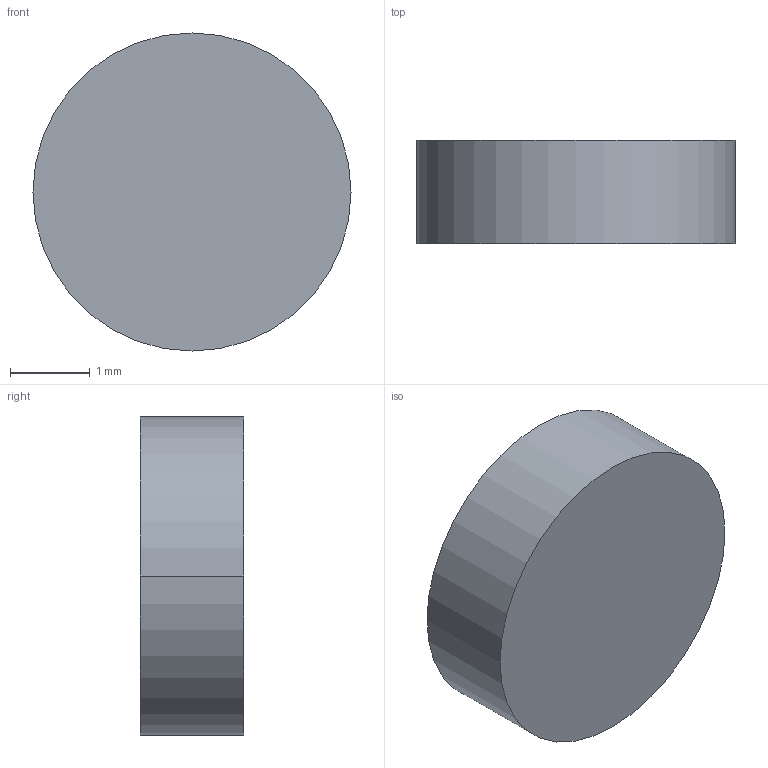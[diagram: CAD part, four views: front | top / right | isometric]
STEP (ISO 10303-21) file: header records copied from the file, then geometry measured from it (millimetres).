
FILE_DESCRIPTION((''),'2;1');
FILE_NAME('MIC-D4-SMD-AAC_PRT','2008-06-30T',('GRA'),(''),'PRO/ENGINEER BY PARAMETRIC TECHNOLOGY CORPORATION, 2006170','PRO/ENGINEER BY PARAMETRIC TECHNOLOGY CORPORATION, 2006170','');
FILE_SCHEMA(('CONFIG_CONTROL_DESIGN'));
Length unit declared in the file: millimetre
Products named in the file (1): MIC-D4-SMD-AAC_PRT
Bounding box: 4 x 1.3 x 4 mm (x, y, z)
Volume: 16.3 mm3; surface area: 41.5 mm2
Topology: 1 solids, 1 shells, 4 faces, 6 edges, 4 vertices
Faces by surface type: plane 2, cylinder 2
Entity records: 132 total; most frequent: DIRECTION 18, CARTESIAN_POINT 14, ORIENTED_EDGE 12, AXIS2_PLACEMENT_3D 8, EDGE_CURVE 6, VERTEX_POINT 4, EDGE_LOOP 4, FACE_OUTER_BOUND 4
